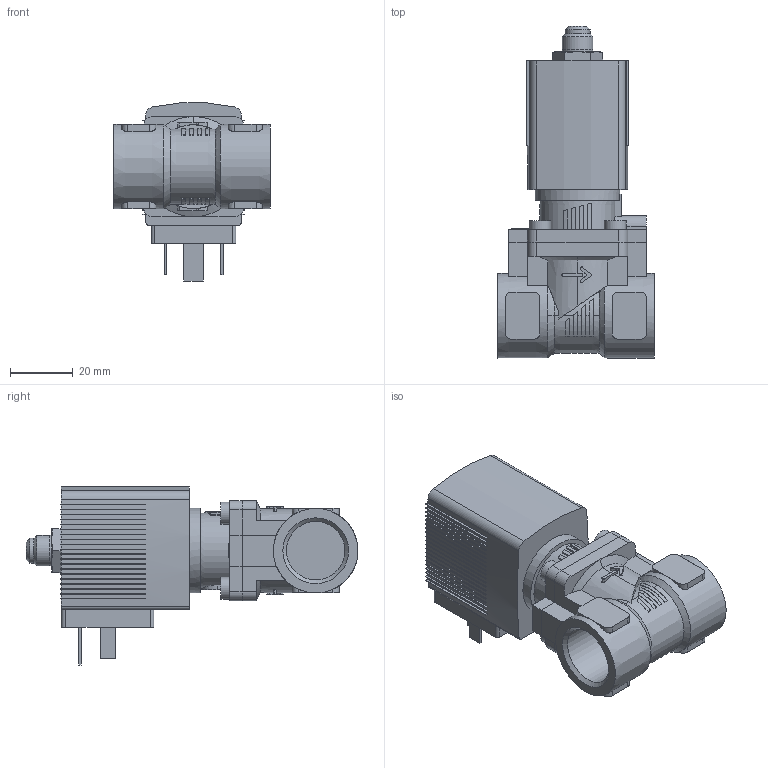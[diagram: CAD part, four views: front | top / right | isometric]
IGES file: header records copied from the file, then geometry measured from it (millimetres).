
Start section: Data from Parasolid IGES Translator 26.0.171, Copyright(c) 2006 Siemens PLM Software. All Rights Reserved.
Global section: file name: 6281-331007-2_2-Way_Solenoid_Valve__Servo-assisted__General_Purpose.igs; native system: By Siemens PLM Incorporated; preprocessor: XPlus GENERIC/IGES 26.0.171; author: Noname; organization: Noname; date: 20240517.214949; units: millimetre
Bounding box: 50 x 106 x 56.84 mm (x, y, z)
Surface area: 24949.3 mm2 (no closed solid volume)
Topology: 0 solids, 0 shells, 545 faces, 3018 edges, 2990 vertices
Faces by surface type: extrusion 427, revolution 118
